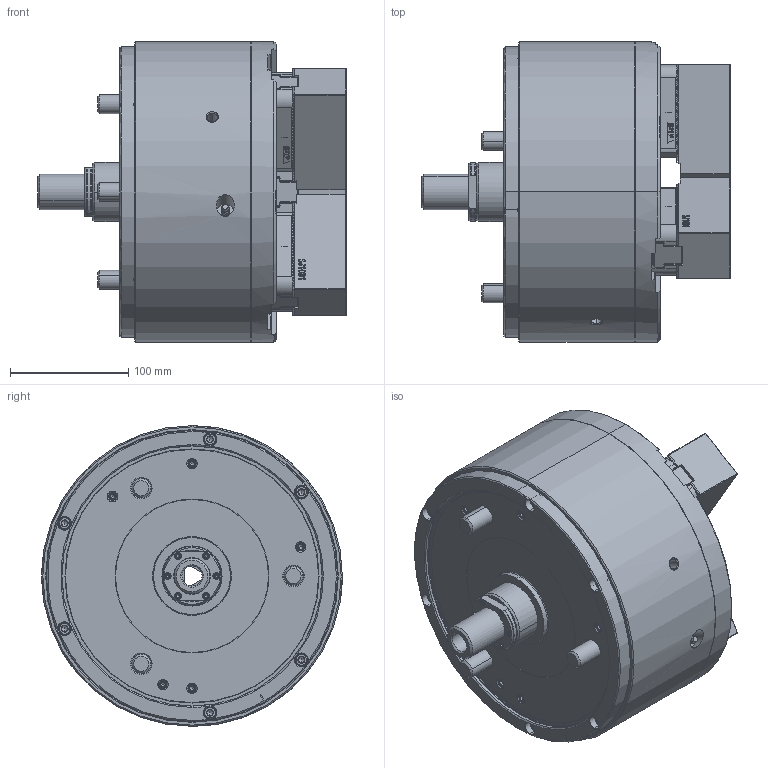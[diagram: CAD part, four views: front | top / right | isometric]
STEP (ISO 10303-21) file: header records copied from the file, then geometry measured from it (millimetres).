
FILE_DESCRIPTION (( 'STEP AP214' ), '1' );
FILE_NAME ('DL210_OC.STEP', '2022-09-08T01:01:00', ( '' ), ( '' ), 'SwSTEP 2.0', 'SolidWorks 2020', '' );
FILE_SCHEMA (( 'AUTOMOTIVE_DESIGN' ));
Length unit declared in the file: millimetre
Products named in the file (5): 61P458879; 結合DL210_OC^DL210; DL210_OC; 0030114040; 61P390757
Assembly tree (13 placements, depth 2):
  DL210_OC
    61P390757  x3
    61P458879  x3
    0030114040  x6
    結合DL210_OC^DL210
Bounding box: 260.3 x 254 x 254 mm (x, y, z)
Volume: 7088373.2 mm3; surface area: 475723.1 mm2
Topology: 13 solids, 57 shells, 6019 faces, 16570 edges, 10782 vertices
Faces by surface type: plane 3769, cylinder 824, bspline 710, cone 678, torus 38
Entity records: 175945 total; most frequent: CARTESIAN_POINT 59274, ORIENTED_EDGE 26384, DIRECTION 20623, EDGE_CURVE 13192, VECTOR 8987, LINE 8987, VERTEX_POINT 8667, AXIS2_PLACEMENT_3D 5818
